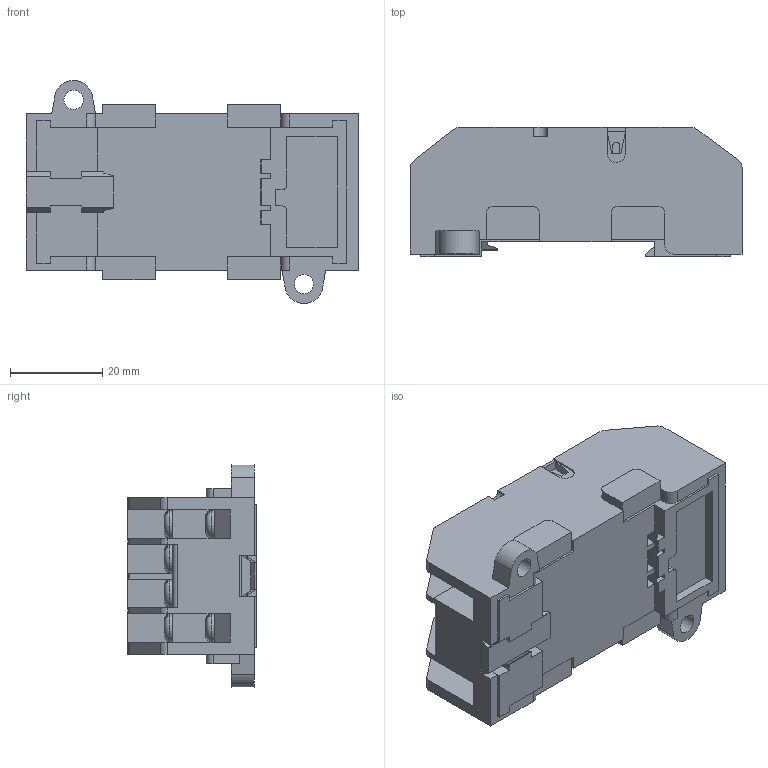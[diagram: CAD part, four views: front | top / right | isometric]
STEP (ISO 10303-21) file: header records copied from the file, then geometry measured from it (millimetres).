
FILE_DESCRIPTION(('STEP AP214'), '1');
FILE_NAME('Êîëîäêà ÐÏ21-004 òèï 3', '', ('UNSPECIFIED'), ('UNSPECIFIED'), 'ASCON STEP Converter 1.6', 'ASCON Math Kernel', '');
FILE_SCHEMA(('AUTOMOTIVE_DESIGN { 1 0 10303 214 3 1 1}'));
Length unit declared in the file: millimetre
Assembly tree (18 placements, depth 3):
  (unnamed)
    (unnamed)
    (unnamed)
    (unnamed)  x14
      (unnamed)
      (unnamed)
Bounding box: 72.1 x 28 x 48.38 mm (x, y, z)
Volume: 50894.7 mm3; surface area: 19747.8 mm2
Topology: 30 solids, 30 shells, 773 faces, 1960 edges, 1281 vertices
Faces by surface type: plane 657, cylinder 88, torus 14, cone 14
Full cylindrical faces by diameter (mm): 2.85 x14, 3 x14, 4.2 x2, 6 x14
Entity records: 21795 total; most frequent: CARTESIAN_POINT 3107, ORIENTED_EDGE 2944, DIRECTION 2689, EDGE_CURVE 1472, LINE 1363, VECTOR 1363, VERTEX_POINT 971, AXIS2_PLACEMENT_3D 663
